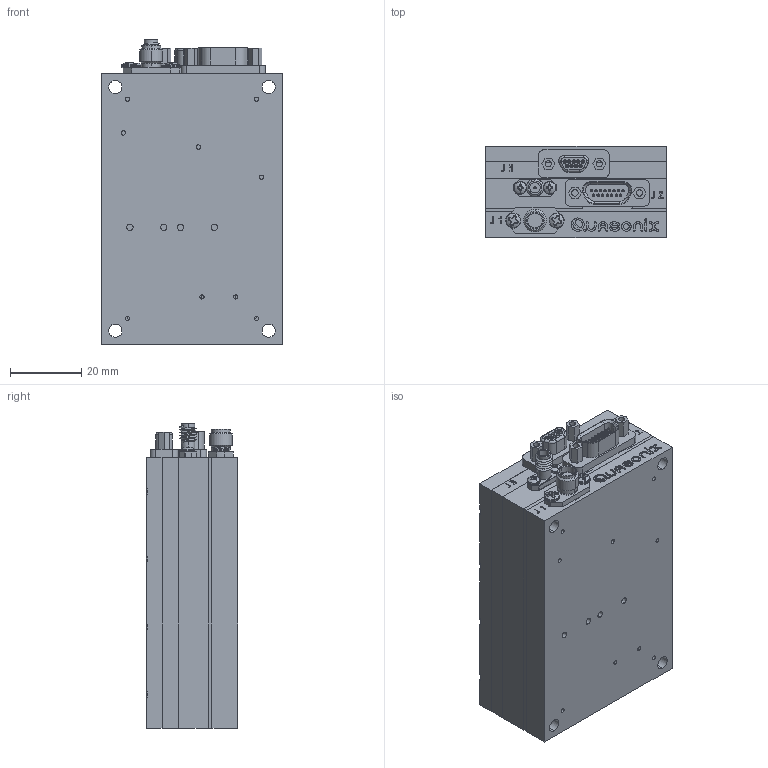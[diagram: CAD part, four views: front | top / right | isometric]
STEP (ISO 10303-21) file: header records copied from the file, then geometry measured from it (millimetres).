
FILE_DESCRIPTION (( 'STEP AP203' ), '1' );
FILE_NAME ('06AB_10-18-13.STEP', '2013-10-18T19:03:28', ( 'Quasonix' ), ( '' ), 'SwSTEP 2.0', 'SolidWorks 2012', '' );
FILE_SCHEMA (( 'CONFIG_CONTROL_DESIGN' ));
Length unit declared in the file: inch
Products named in the file (1): 06AB_10-18-13
Bounding box: 50.8 x 25.7 x 85.72 mm (x, y, z)
Surface area: 20929.6 mm2 (no closed solid volume)
Topology: 0 solids, 62 shells, 971 faces, 2965 edges, 2033 vertices
Faces by surface type: plane 503, cylinder 250, cone 105, bspline 80, torus 25, sphere 8
Entity records: 35261 total; most frequent: CARTESIAN_POINT 9204, DIRECTION 5327, ORIENTED_EDGE 5056, EDGE_CURVE 2953, VERTEX_POINT 2033, AXIS2_PLACEMENT_3D 1879, LINE 1569, VECTOR 1569
